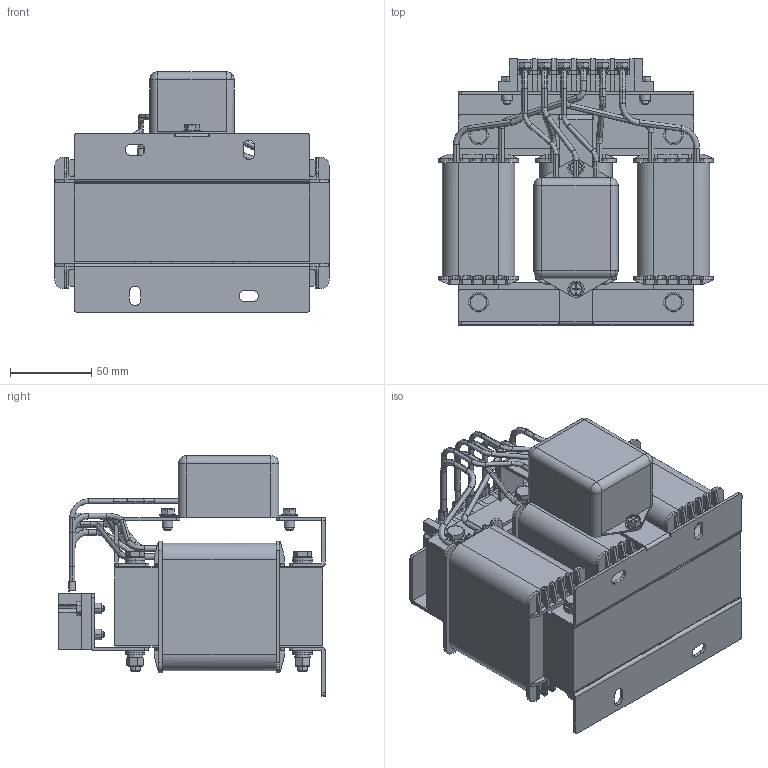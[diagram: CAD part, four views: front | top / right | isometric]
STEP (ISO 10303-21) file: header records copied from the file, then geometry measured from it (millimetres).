
FILE_DESCRIPTION (( 'STEP AP203' ), '1' );
FILE_NAME ('婰錪襝 dU_dT _ IDUDT-11_14-6.STEP', '2026-05-05T11:55:49', ( '' ), ( '' ), 'SwSTEP 2.0', 'SolidWorks 2021', '' );
FILE_SCHEMA (( 'CONFIG_CONTROL_DESIGN' ));
Length unit declared in the file: millimetre
Products named in the file (94): PW5-06-04+盄嫉_20; PW5-06-04+盄嫉_1; PW5-06-04+盄嫉_29; 电容引线; M6螺母+双平垫+弹垫_1; PW5-06-04+盄嫉_46; PW5-06-04+盄嫉_26; M5｡ﾁ10ﾂﾝﾋｨ+1ﾆｽ_1; 狟標璃-SKS-0895.406-LJ-A0; PW5-06-04+盄嫉_38; DVT-竘盄_2; PW5-06-04+盄嫉_36; DVT-竘盄; PW5-06-04+盄嫉_49; M5｡ﾁ10ﾂﾝﾋｨ+1ﾆｽ; M6螺母+双平垫+弹垫_2; PW5-06-04+盄嫉_11; PW5-06-04+盄嫉_27; M6｡ﾁ70+2ﾆｽ_3; PW5-06-04+盄嫉_2; M6｡ﾁ70+2ﾆｽ_5; PW5-06-04+盄嫉_54; PW5-06-04+盄嫉_53; PW5-06-04+盄嫉_52; 下夹件-145×22×30-通; M6｡ﾁ70+2ﾆｽ; PW5-06-04+盄嫉_9; PW5-06-04+盄嫉_48; PW5-06-04+盄嫉_18; PW5-06-04+盄嫉_30; PW5-06-04+盄嫉_12; PW5-06-04+盄嫉_13; PW5-06-04+盄嫉_28; PW5-06-04+盄嫉_44; PW5-06-04+盄嫉_39; PW5-06-04+盄嫉_43; plain washers--product grade c gb_GB_FASTENER_WASHER_SMWC 5; PW5-06-04+盄嫉_8; PW5-06-04+盄嫉_19; PW5-06-04+盄嫉_7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
Assembly tree (123 placements, depth 3):
  婰錪襝 dU_dT _ IDUDT-11_14-6
    ﾌ昻ｾ145｡ﾁ25｡ﾁ48
    嶺啣沭128℅25  x6
    M6螺母+双平垫+弹垫  x6
      M6螺母+双平垫+弹垫_2
      M6螺母+双平垫+弹垫_1
      M6螺母+双平垫+弹垫
      M6螺母+双平垫+弹垫_3
    ｹﾇｼﾜG25｡ﾁ50｡ﾁ75  x3
    下夹件-145×22×30-通
    狟標璃-SKS-0895.406-LJ-A0
    奻標璃-SKS-0895.405-LJ-A0
    奻標璃+傷赽PW5-06-04
    M6｡ﾁ70+2ﾆｽ
      M6｡ﾁ70
      plain washers--product grade c gb_GB_FASTENER_WASHER_SMWC 6  x2
    M6｡ﾁ70+2ﾆｽ_1
      M6｡ﾁ70
      plain washers--product grade c gb_GB_FASTENER_WASHER_SMWC 6  x2
    M6｡ﾁ70+2ﾆｽ_2
      M6｡ﾁ70
      plain washers--product grade c gb_GB_FASTENER_WASHER_SMWC 6  x2
    M6｡ﾁ70+2ﾆｽ_3
      M6｡ﾁ70
      plain washers--product grade c gb_GB_FASTENER_WASHER_SMWC 6  x2
    M6｡ﾁ70+2ﾆｽ_4
      M6｡ﾁ70
      plain washers--product grade c gb_GB_FASTENER_WASHER_SMWC 6  x2
    M6｡ﾁ70+2ﾆｽ_5
      M6｡ﾁ70
      plain washers--product grade c gb_GB_FASTENER_WASHER_SMWC 6  x2
    PW5-06-04+盄嫉
      PW5-06-04+盄嫉_55
      PW5-06-04+盄嫉_49
      PW5-06-04+盄嫉_45
      PW5-06-04+盄嫉_19
      PW5-06-04+盄嫉_22
      PW5-06-04+盄嫉_18
      PW5-06-04+盄嫉_33
      PW5-06-04+盄嫉_11
      PW5-06-04+盄嫉_25
      PW5-06-04+盄嫉_4
      PW5-06-04+盄嫉_23
      PW5-06-04+盄嫉_15
      PW5-06-04+盄嫉_36
      PW5-06-04+盄嫉_32
      PW5-06-04+盄嫉_26
      PW5-06-04+盄嫉_9
      PW5-06-04+盄嫉_39
      PW5-06-04+盄嫉_7
      PW5-06-04+盄嫉_24
      PW5-06-04+盄嫉_21
      PW5-06-04+盄嫉_54
      PW5-06-04+盄嫉_34
      PW5-06-04+盄嫉_14
      PW5-06-04+盄嫉_8
      PW5-06-04+盄嫉_20
      PW5-06-04+盄嫉_2
      PW5-06-04+盄嫉_16
      PW5-06-04+盄嫉_46
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Bounding box: 169.3 x 164 x 148 mm (x, y, z)
Volume: 1377419.6 mm3; surface area: 380295.1 mm2
Topology: 126 solids, 126 shells, 2629 faces, 6809 edges, 4475 vertices
Faces by surface type: plane 1660, cylinder 746, cone 164, bspline 54, sphere 5
Entity records: 58940 total; most frequent: CARTESIAN_POINT 10747, DIRECTION 7760, ORIENTED_EDGE 7696, EDGE_CURVE 3848, VECTOR 2656, LINE 2656, AXIS2_PLACEMENT_3D 2552, VERTEX_POINT 2521
